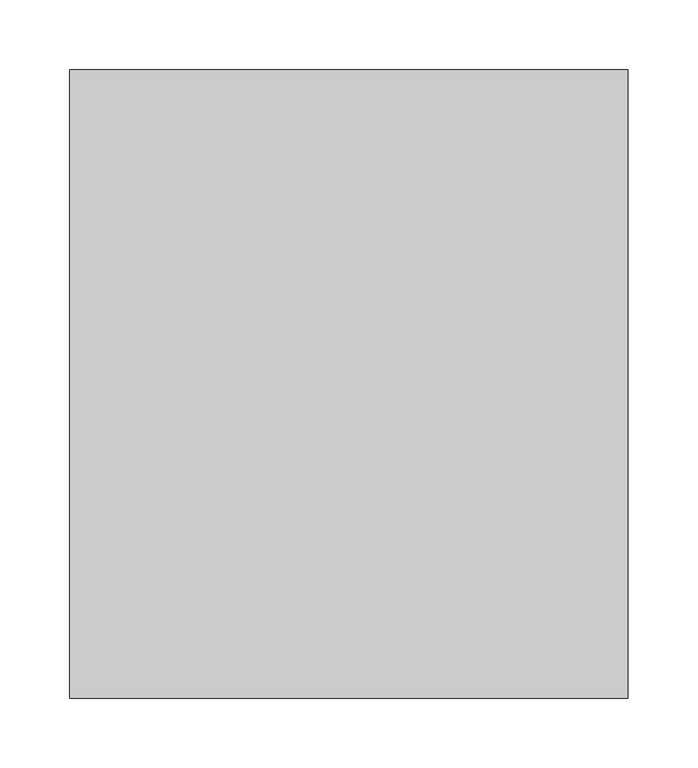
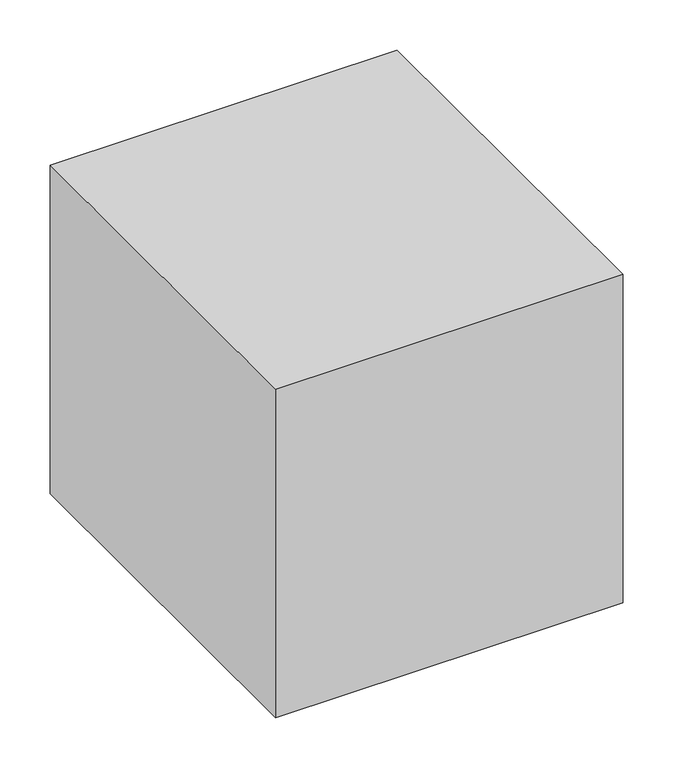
"""IFC4 building model written with IfcOpenShell, lengths in millimetres: proxy geometry, 制気口ボックス : 制気口ボックス."""

from ifc_helpers import new_model, si_unit, frame, origin, place, context, project, spatial, polyline, outline, extrude, source, transform, mapped, element, save


def mechanical_equipment_a8d9a192(model_context):
    return source(origin(), model_context, "Body", "SweptSolid", [
        extrude(outline(polyline([(200.0, 225.0), (200.0, -225.0), (-200.0, -225.0), (-200.0, 225.0), (200.0, 225.0)])), frame((0.0, 0.0, -200.0), z_axis=(0.0, 0.0, 1.0), x_axis=(1.0, 0.0, 0.0)), (0.0, 0.0, 1.0), 400.0),
    ])


if __name__ == "__main__":
    model = new_model("IFC4")
    model_context = context("Model", 3, world=origin())
    ifc_project = project(units=[si_unit("LENGTHUNIT", "METRE", prefix="MILLI")], contexts=[model_context])
    site = spatial("IfcSite", under=ifc_project)
    building = spatial("IfcBuilding", under=site)
    placement = place(None, origin())
    mechanical_equipment_shape = mechanical_equipment_a8d9a192(model_context)
    element("IfcBuildingElementProxy", 1, Name="制気口ボックス : 制気口ボックス", ObjectType="制気口ボックス : 制気口ボックス", at=placement, inside=building, context=model_context, shape_type="MappedRepresentation", body=[
        mapped(mechanical_equipment_shape, transform((0.0, 0.0, 0.0), x_axis=(1.0, 0.0, 0.0), y_axis=(0.0, 1.0, 0.0), z_axis=(0.0, 0.0, 1.0))),
    ])
    save(model, "model.ifc")
